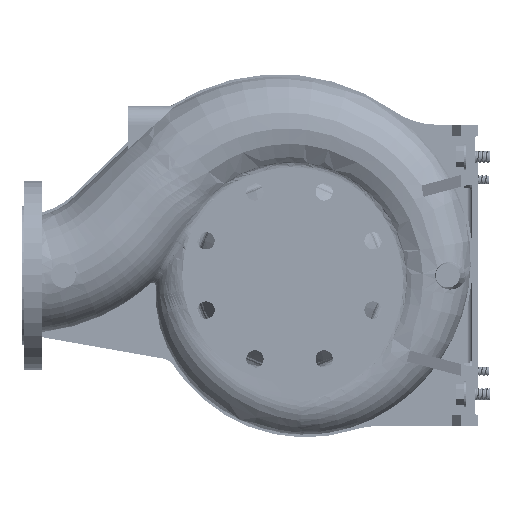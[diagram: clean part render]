
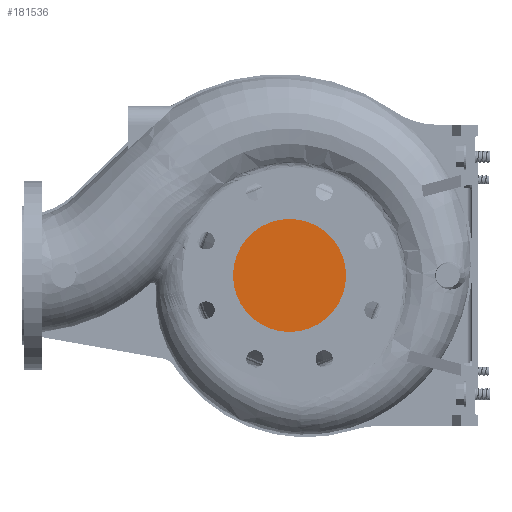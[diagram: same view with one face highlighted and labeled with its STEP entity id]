
A CAD part, left-side view. The second image highlights one B-rep face of the part: STEP entity #181536.
In plain terms, the highlighted planar face has unit normal (-1, 0, 0).
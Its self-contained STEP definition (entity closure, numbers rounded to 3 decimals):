
#3013 = DIRECTION ( 'NONE',  ( -1., 0., 0. ) ) ;
#19567 = CIRCLE ( 'NONE', #36486, 75. ) ;
#25525 = PLANE ( 'NONE',  #101070 ) ;
#33142 = CIRCLE ( 'NONE', #168824, 75. ) ;
#36486 = AXIS2_PLACEMENT_3D ( 'NONE', #99996, #118659, #259410 ) ;
#40576 = VERTEX_POINT ( 'NONE', #173978 ) ;
#63978 = ORIENTED_EDGE ( 'NONE', *, *, #132409, .T. ) ;
#64488 = CARTESIAN_POINT ( 'NONE',  ( -130., 0., 75. ) ) ;
#94446 = DIRECTION ( 'NONE',  ( 0., 0., 1. ) ) ;
#99996 = CARTESIAN_POINT ( 'NONE',  ( -130., 0., 0. ) ) ;
#101070 = AXIS2_PLACEMENT_3D ( 'NONE', #126406, #3013, #247257 ) ;
#118659 = DIRECTION ( 'NONE',  ( -1., 0., 0. ) ) ;
#122348 = VERTEX_POINT ( 'NONE', #64488 ) ;
#126406 = CARTESIAN_POINT ( 'NONE',  ( -130., 0., 0. ) ) ;
#132409 = EDGE_CURVE ( 'NONE', #122348, #40576, #33142, .T. ) ;
#135630 = EDGE_LOOP ( 'NONE', ( #63978, #160746 ) ) ;
#138228 = CARTESIAN_POINT ( 'NONE',  ( -130., 0., 0. ) ) ;
#160746 = ORIENTED_EDGE ( 'NONE', *, *, #226592, .T. ) ;
#168824 = AXIS2_PLACEMENT_3D ( 'NONE', #138228, #219141, #94446 ) ;
#168863 = FACE_OUTER_BOUND ( 'NONE', #135630, .T. ) ;
#173978 = CARTESIAN_POINT ( 'NONE',  ( -130., 0., -75. ) ) ;
#181536 = ADVANCED_FACE ( 'NONE', ( #168863 ), #25525, .T. ) ;
#219141 = DIRECTION ( 'NONE',  ( -1., 0., 0. ) ) ;
#226592 = EDGE_CURVE ( 'NONE', #40576, #122348, #19567, .T. ) ;
#247257 = DIRECTION ( 'NONE',  ( 0., 0., 1. ) ) ;
#259410 = DIRECTION ( 'NONE',  ( 0., 0., 1. ) ) ;
